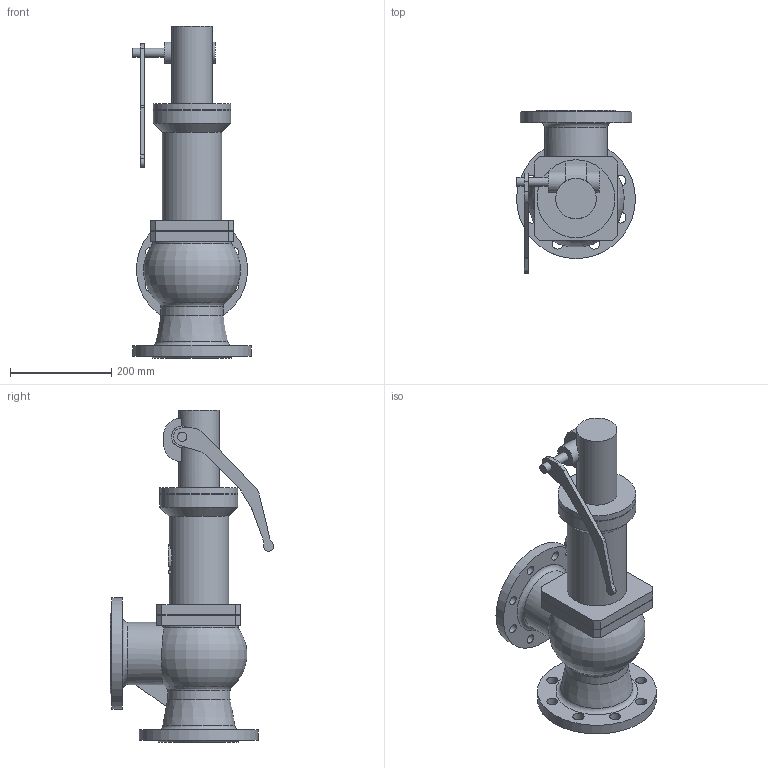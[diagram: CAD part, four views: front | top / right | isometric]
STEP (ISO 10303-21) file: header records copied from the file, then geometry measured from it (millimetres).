
FILE_DESCRIPTION(('STEP AP203'), '1');
FILE_NAME('Êëàïàí ïðåäîõðàíèòåëüíûé ñðåäíåïîäüåìíûé SV1F 100x100', '', ('UNSPECIFIED'), ('UNSPECIFIED'), 'ASCON STEP Converter 1.6', 'ASCON Math Kernel', '');
FILE_SCHEMA(('CONFIG_CONTROL_DESIGN'));
Length unit declared in the file: millimetre
Bounding box: 235 x 322.87 x 656.5 mm (x, y, z)
Volume: 7140322.3 mm3; surface area: 804991.2 mm2
Topology: 1 solids, 3 shells, 143 faces, 383 edges, 254 vertices
Faces by surface type: plane 74, cylinder 60, torus 5, cone 4
Full cylindrical faces by diameter (mm): 18 x10, 22 x8, 42 x2, 60 x1, 80 x1, 98 x1, 100 x3, 118 x1, 124 x1, 134 x1, 143 x1, 154 x2, 220 x1, 235 x1
Entity records: 7652 total; most frequent: CARTESIAN_POINT 2982, DIRECTION 713, ORIENTED_EDGE 674, EDGE_CURVE 337, AXIS2_PLACEMENT_3D 285, VERTEX_POINT 254, EDGE_LOOP 229, FACE_BOUND 163
